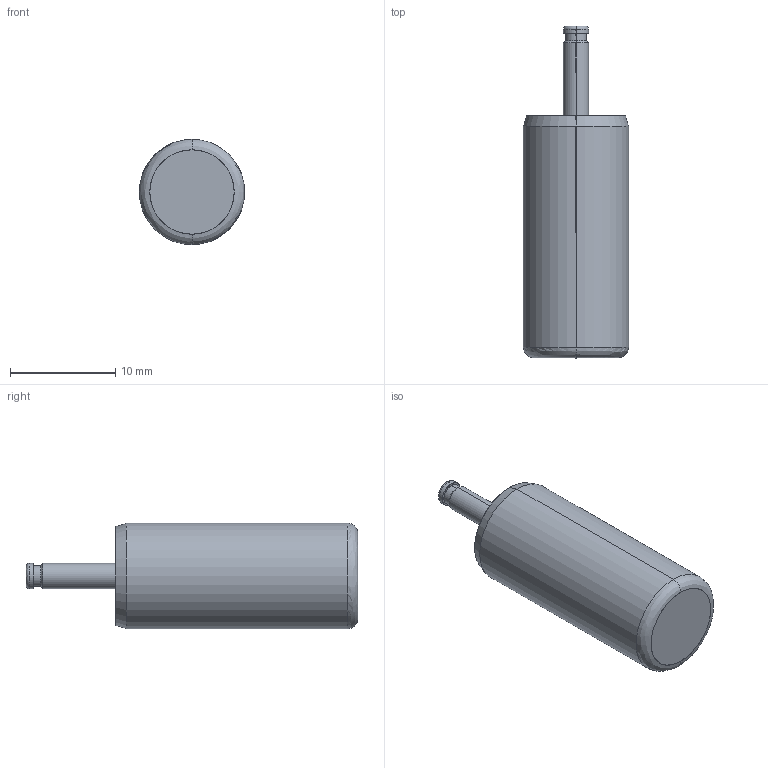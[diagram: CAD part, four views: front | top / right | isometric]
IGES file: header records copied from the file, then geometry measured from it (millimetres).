
Start section: SolidWorks IGES file using analytic representation for surfaces
Bounding box: 10 x 31.5 x 10 mm (x, y, z)
Surface area: 920.4 mm2 (no closed solid volume)
Topology: 0 solids, 0 shells, 20 faces, 256 edges, 256 vertices
Faces by surface type: revolution 12, bspline 8
